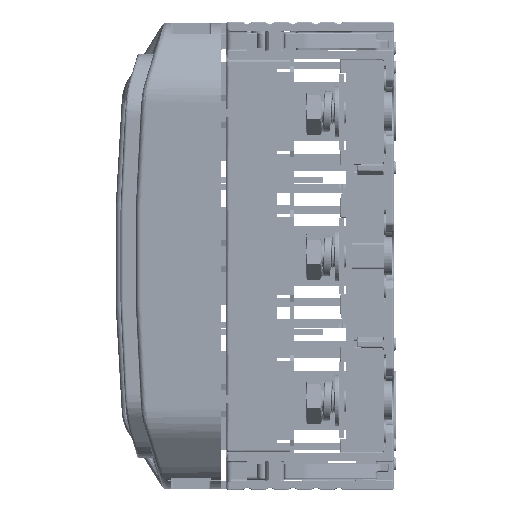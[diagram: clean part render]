
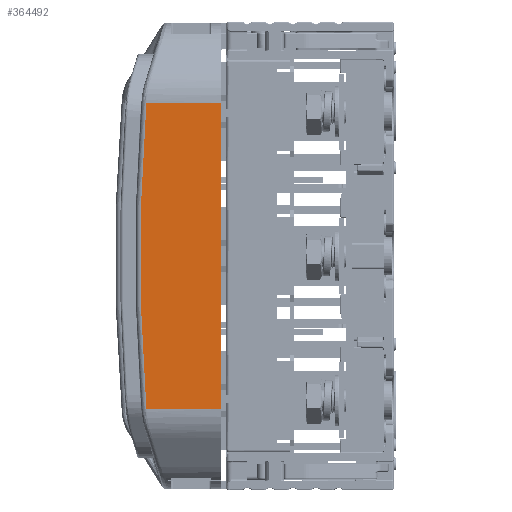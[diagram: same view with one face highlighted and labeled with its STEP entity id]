
A CAD part, left-side view. The second image highlights one B-rep face of the part: STEP entity #364492.
In plain terms, the highlighted planar face has unit normal (-1, 0, 0) as drawn and (0, 0, -1) by its records, which use the part's own axes.
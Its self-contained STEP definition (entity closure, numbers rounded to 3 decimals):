
#6644 = LINE ( 'NONE', #127648, #19658 ) ;
#14427 = CARTESIAN_POINT ( 'NONE',  ( 60.425, 34., 0. ) ) ;
#16443 = EDGE_CURVE ( 'NONE', #109737, #241378, #6644, .T. ) ;
#19658 = VECTOR ( 'NONE', #248587, 1000. ) ;
#25271 = CARTESIAN_POINT ( 'NONE',  ( 60.425, -7.998, 0. ) ) ;
#30189 = EDGE_CURVE ( 'NONE', #109737, #151499, #293096, .T. ) ;
#39879 = CARTESIAN_POINT ( 'NONE',  ( -60.425, 4.391, 0. ) ) ;
#48707 = VECTOR ( 'NONE', #303446, 1000. ) ;
#70087 = AXIS2_PLACEMENT_3D ( 'NONE', #339857, #214903, #93979 ) ;
#88245 = AXIS2_PLACEMENT_3D ( 'NONE', #225234, #357984, #383816 ) ;
#93979 = DIRECTION ( 'NONE',  ( 1., 0., 0. ) ) ;
#109737 = VERTEX_POINT ( 'NONE', #14427 ) ;
#127648 = CARTESIAN_POINT ( 'NONE',  ( 0., 34., 0. ) ) ;
#145918 = VECTOR ( 'NONE', #146245, 1000. ) ;
#146245 = DIRECTION ( 'NONE',  ( 0., -1., 0. ) ) ;
#151499 = VERTEX_POINT ( 'NONE', #350760 ) ;
#163159 = ORIENTED_EDGE ( 'NONE', *, *, #362383, .T. ) ;
#184437 = LINE ( 'NONE', #208272, #48707 ) ;
#208272 = CARTESIAN_POINT ( 'NONE',  ( -60.425, -7.998, 0. ) ) ;
#214903 = DIRECTION ( 'NONE',  ( 0., 0., 1. ) ) ;
#215064 = CIRCLE ( 'NONE', #88245, 764.79 ) ;
#221283 = ORIENTED_EDGE ( 'NONE', *, *, #16443, .F. ) ;
#224777 = EDGE_LOOP ( 'NONE', ( #249570, #163159, #370858, #221283 ) ) ;
#225234 = CARTESIAN_POINT ( 'NONE',  ( 0., 766.79, 0. ) ) ;
#241378 = VERTEX_POINT ( 'NONE', #287504 ) ;
#244666 = FACE_OUTER_BOUND ( 'NONE', #224777, .T. ) ;
#248587 = DIRECTION ( 'NONE',  ( -1., 0., 0. ) ) ;
#249570 = ORIENTED_EDGE ( 'NONE', *, *, #30189, .T. ) ;
#275113 = VERTEX_POINT ( 'NONE', #39879 ) ;
#276407 = PLANE ( 'NONE',  #70087 ) ;
#287504 = CARTESIAN_POINT ( 'NONE',  ( -60.425, 34., 0. ) ) ;
#293096 = LINE ( 'NONE', #25271, #145918 ) ;
#303446 = DIRECTION ( 'NONE',  ( 0., -1., 0. ) ) ;
#339857 = CARTESIAN_POINT ( 'NONE',  ( 0., 0., 0. ) ) ;
#350760 = CARTESIAN_POINT ( 'NONE',  ( 60.425, 4.391, 0. ) ) ;
#357984 = DIRECTION ( 'NONE',  ( 0., 0., -1. ) ) ;
#362383 = EDGE_CURVE ( 'NONE', #151499, #275113, #215064, .T. ) ;
#364492 = ADVANCED_FACE ( 'NONE', ( #244666 ), #276407, .F. ) ;
#370858 = ORIENTED_EDGE ( 'NONE', *, *, #384113, .F. ) ;
#383816 = DIRECTION ( 'NONE',  ( 1., 0., 0. ) ) ;
#384113 = EDGE_CURVE ( 'NONE', #241378, #275113, #184437, .T. ) ;
